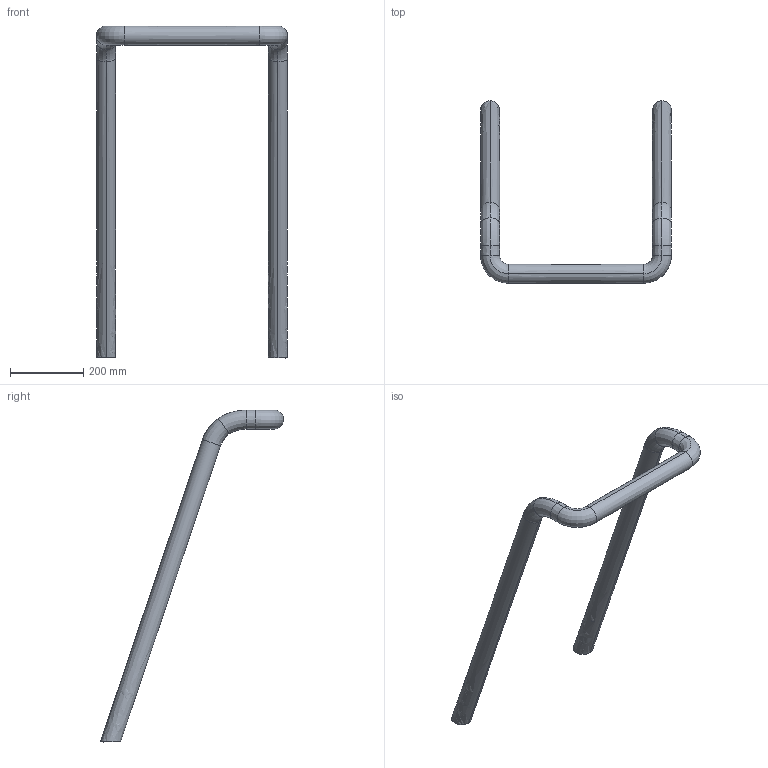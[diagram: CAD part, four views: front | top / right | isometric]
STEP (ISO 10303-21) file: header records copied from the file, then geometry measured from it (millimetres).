
FILE_DESCRIPTION(/* description */ (''),/* implementation_level */ '2;1');
FILE_NAME(/* name */ 'lift-poruchen—0825',/* time_stamp */ '2025-08-01T15:51:25+03:00',/* author */ (''),/* organization */ (''),/* preprocessor_version */ 'ST-DEVELOPER v16.5',/* originating_system */ 'Rhino 7.32',/* authorisation */ '');
FILE_SCHEMA (('AUTOMOTIVE_DESIGN'));
Length unit declared in the file: centimetre
Products named in the file (1): Document
Bounding box: 522 x 500.68 x 907.73 mm (x, y, z)
Volume: 5421829.7 mm3; surface area: 421464 mm2
Topology: 1 solids, 1 shells, 24 faces, 49 edges, 27 vertices
Faces by surface type: bspline 24
Entity records: 2324 total; most frequent: CARTESIAN_POINT 1715, ORIENTED_EDGE 98, PCURVE 98, DEFINITIONAL_REPRESENTATION 98, B_SPLINE_CURVE_WITH_KNOTS 91, SURFACE_CURVE 49, EDGE_CURVE 49, VERTEX_POINT 27
